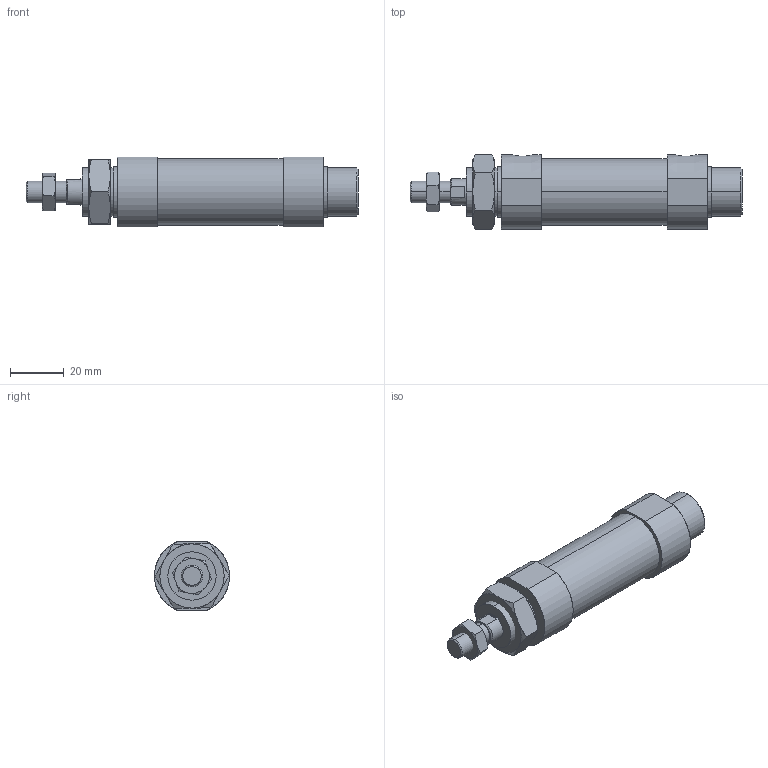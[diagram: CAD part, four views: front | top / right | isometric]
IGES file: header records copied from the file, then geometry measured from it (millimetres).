
Start section: SolidWorks IGES file using analytic representation for surfaces
Global section: file name: C:\Users\Toshiba\Desktop\J#2-20-15-N.IGS; native system: SolidWorks 2014; preprocessor: SolidWorks 2014; author: Toshiba; date: 160308.145252; units: millimetre
Bounding box: 124 x 28 x 26 mm (x, y, z)
Surface area: 12619.9 mm2 (no closed solid volume)
Topology: 0 solids, 0 shells, 92 faces, 1620 edges, 1620 vertices
Faces by surface type: bspline 60, revolution 32
